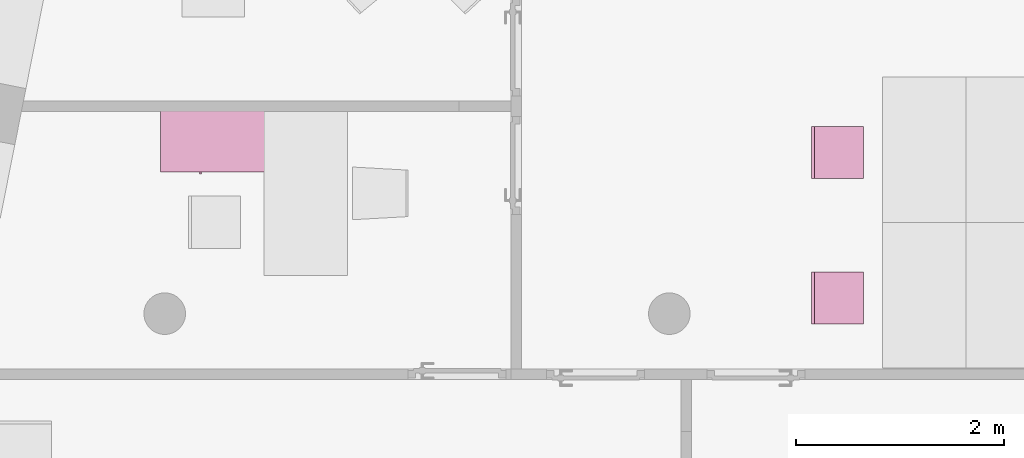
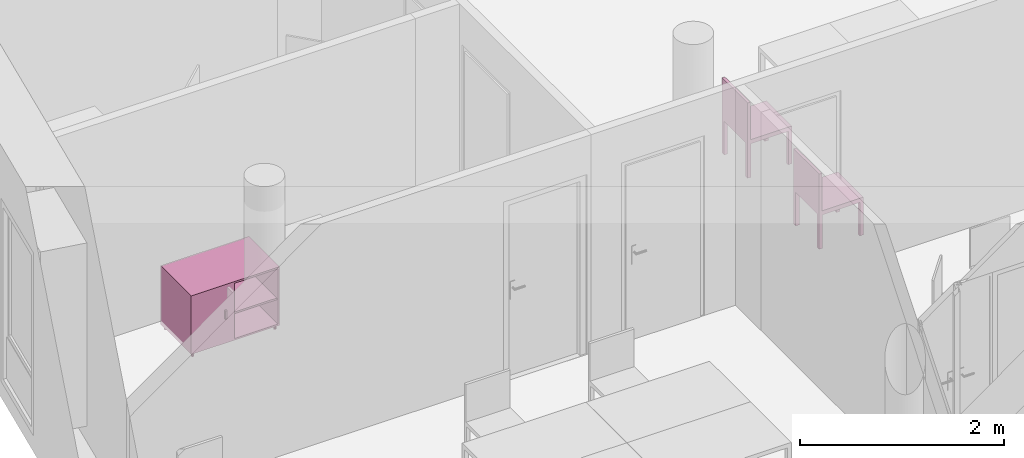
"""IFC4 building model written with IfcOpenShell, lengths in metres."""

from ifc_helpers import new_model, entity, si_unit, converted_unit, derived_unit, frame, origin, place, context, subcontext, project, spatial, faceted_brep, element, save


model = new_model("IFC4")

# Units and contexts
model_context = context("Model", 3, precision=1e-05, world=origin())
body_context = subcontext(model_context, "Body", "Model", "MODEL_VIEW")
ifc_project = project(units=[si_unit("LENGTHUNIT", "METRE"), si_unit("AREAUNIT", "SQUARE_METRE"), si_unit("VOLUMEUNIT", "CUBIC_METRE"), si_unit("MASSUNIT", "GRAM", prefix="KILO"), converted_unit("PLANEANGLEUNIT", "DEGREE", entity("IfcPlaneAngleMeasure", 0.0174532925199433), si_unit("PLANEANGLEUNIT", "RADIAN"), dimensions=[0, 0, 0, 0, 0, 0, 0]), derived_unit("THERMALTRANSMITTANCEUNIT", [(si_unit("POWERUNIT", "WATT"), 1), (si_unit("THERMODYNAMICTEMPERATUREUNIT", "KELVIN"), -1), (si_unit("LENGTHUNIT", "METRE"), -2)]), derived_unit("VOLUMETRICFLOWRATEUNIT", [(si_unit("LENGTHUNIT", "METRE"), 3), (converted_unit("TIMEUNIT", "hour", entity("IfcTimeMeasure", 3600.0), si_unit("TIMEUNIT", "SECOND"), dimensions=[0, 0, 1, 0, 0, 0, 0]), -1), (si_unit("LENGTHUNIT", "METRE"), -1)])], contexts=[model_context])

# Building, storeys
building_placement = place(None, origin())
building = spatial("IfcBuilding", under=ifc_project, at=building_placement, Name="HABITATGE PLURIFAMILIAR", CompositionType="ELEMENT")
storey_1_placement = place(building_placement, frame((0.0, 0.0, 12.27)))
storey_1 = spatial("IfcBuildingStorey", under=building, at=storey_1_placement, Name="PLANTA TERCERA", CompositionType="ELEMENT", Elevation=12.27)
storey_2_placement = place(storey_1_placement, frame((0.0, 0.0, 9.26)))
storey_2 = spatial("IfcBuildingStorey", under=storey_1, at=storey_2_placement, Name="NOU", CompositionType="PARTIAL")

# Furniture
furniture_1_placement = place(storey_2_placement, frame((400.947150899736, 19.1432015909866, -9.3599999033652)))
element("IfcFurniture", 1, at=furniture_1_placement, inside=storey_2, Name="Taula 100X60_P3", context=body_context, shape_type="Brep", body=[
    faceted_brep([(1.0, 0.620000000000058, 0.05), (1.0, 0.02, 0.05), (1.0, 0.02, 0.07), (1.0, 0.620000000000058, 0.07), (0.0, 0.02, 0.05), (0.0, 0.02, 0.07), (0.0, 0.620000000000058, 0.05), (0.0, 0.620000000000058, 0.07)], [[[0, 1, 2, 3]], [[1, 4, 5, 2]], [[4, 6, 7, 5]], [[6, 0, 3, 7]], [[0, 6, 4, 1]], [[3, 2, 5, 7]]], orient=[[False], [False], [False], [False], [False], [False]]),
    faceted_brep([(1.0, 0.04, 0.35), (1.0, 0.62, 0.35), (0.0, 0.62, 0.35), (0.0, 0.04, 0.35), (1.0, 0.62, 0.37), (1.0, 0.04, 0.37), (0.0, 0.04, 0.37), (0.0, 0.62, 0.37)], [[[0, 1, 2, 3]], [[4, 5, 6, 7]], [[1, 0, 5, 4]], [[2, 1, 4, 7]], [[3, 2, 7, 6]], [[0, 3, 6, 5]]], orient=[[False], [False], [False], [False], [False], [False]]),
    faceted_brep([(0.49, 0.04, 0.75), (0.49, 0.04, 0.05), (0.49, 0.02, 0.05), (0.49, 0.02, 0.75), (0.0, 0.04, 0.05), (0.0, 0.02, 0.05), (0.0, 0.04, 0.75), (0.0, 0.02, 0.75)], [[[0, 1, 2, 3]], [[1, 4, 5, 2]], [[4, 6, 7, 5]], [[6, 0, 3, 7]], [[0, 6, 4, 1]], [[3, 2, 5, 7]]], orient=[[False], [False], [False], [False], [False], [False]]),
    faceted_brep([(0.98, 0.62, 0.75), (0.98, 0.620000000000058, 0.0499999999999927), (1.0, 0.620000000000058, 0.0499999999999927), (1.0, 0.62, 0.75), (0.98, 0.02, 0.05), (1.0, 0.02, 0.05), (0.98, 0.02, 0.75), (1.0, 0.02, 0.75)], [[[0, 1, 2, 3]], [[1, 4, 5, 2]], [[4, 6, 7, 5]], [[6, 0, 3, 7]], [[0, 6, 4, 1]], [[3, 2, 5, 7]]], orient=[[False], [False], [False], [False], [False], [False]]),
    faceted_brep([(0.47, 0.62, 0.75), (0.47, 0.620000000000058, 0.0499999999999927), (0.49, 0.620000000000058, 0.0499999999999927), (0.49, 0.62, 0.75), (0.47, 0.02, 0.05), (0.49, 0.02, 0.05), (0.47, 0.02, 0.75), (0.49, 0.02, 0.75)], [[[0, 1, 2, 3]], [[1, 4, 5, 2]], [[4, 6, 7, 5]], [[6, 0, 3, 7]], [[0, 6, 4, 1]], [[3, 2, 5, 7]]], orient=[[False], [False], [False], [False], [False], [False]]),
    faceted_brep([(0.47, 0.620000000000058, 0.750000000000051), (0.47, 0.620000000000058, 0.0499999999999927), (0.49, 0.620000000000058, 0.0499999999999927), (0.49, 0.620000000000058, 0.750000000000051), (0.47, 0.0400000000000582, 0.0499999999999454), (0.49, 0.0400000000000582, 0.0499999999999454), (0.47, 0.04, 0.750000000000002), (0.49, 0.04, 0.750000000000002)], [[[0, 1, 2, 3]], [[1, 4, 5, 2]], [[4, 6, 7, 5]], [[6, 0, 3, 7]], [[0, 6, 4, 1]], [[3, 2, 5, 7]]], orient=[[False], [False], [False], [False], [False], [False]]),
    faceted_brep([(0.0, 0.62, 0.75), (0.0, 0.620000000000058, 0.0499999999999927), (0.02, 0.620000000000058, 0.0499999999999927), (0.02, 0.62, 0.75), (0.0, 0.02, 0.05), (0.02, 0.02, 0.05), (0.0, 0.02, 0.75), (0.02, 0.02, 0.75)], [[[0, 1, 2, 3]], [[1, 4, 5, 2]], [[4, 6, 7, 5]], [[6, 0, 3, 7]], [[0, 6, 4, 1]], [[3, 2, 5, 7]]], orient=[[False], [False], [False], [False], [False], [False]]),
    faceted_brep([(1.0, 0.620000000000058, 0.73), (1.0, 0.02, 0.73), (1.0, 0.02, 0.75), (1.0, 0.620000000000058, 0.75), (0.0, 0.02, 0.73), (0.0, 0.02, 0.75), (0.0, 0.620000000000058, 0.73), (0.0, 0.620000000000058, 0.75)], [[[0, 1, 2, 3]], [[1, 4, 5, 2]], [[4, 6, 7, 5]], [[6, 0, 3, 7]], [[0, 6, 4, 1]], [[3, 2, 5, 7]]], orient=[[False], [False], [False], [False], [False], [False]]),
    faceted_brep([(0.98, 0.62, 0.75), (0.98, 0.62, 0.05), (0.98, 0.6, 0.05), (0.98, 0.6, 0.75), (0.0, 0.62, 0.05), (0.0, 0.6, 0.05), (0.0, 0.62, 0.75), (0.0, 0.6, 0.75)], [[[0, 1, 2, 3]], [[1, 4, 5, 2]], [[4, 6, 7, 5]], [[6, 0, 3, 7]], [[0, 6, 4, 1]], [[3, 2, 5, 7]]], orient=[[False], [False], [False], [False], [False], [False]]),
    faceted_brep([(0.374420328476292, 0.02, 0.35), (0.374420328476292, 0.0, 0.35), (0.394420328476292, 0.0, 0.35), (0.394420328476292, 0.02, 0.35), (0.394420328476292, 0.02, 0.45), (0.394420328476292, 0.0, 0.45), (0.374420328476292, 0.0, 0.45), (0.374420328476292, 0.02, 0.45)], [[[0, 1, 2, 3]], [[4, 5, 6, 7]], [[3, 4, 7, 0]], [[2, 5, 4, 3]], [[1, 6, 5, 2]], [[0, 7, 6, 1]]], orient=[[False], [False], [False], [False], [False], [False]]),
    faceted_brep([(0.950063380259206, 0.583821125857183, 0.0), (0.950290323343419, 0.581227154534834, 0.0), (0.9509642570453, 0.578711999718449, 0.0), (0.952064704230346, 0.5763520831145, 0.0), (0.953558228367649, 0.574219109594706, 0.0), (0.955399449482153, 0.57237788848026, 0.0), (0.957532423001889, 0.570884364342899, 0.0), (0.959892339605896, 0.569783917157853, 0.0), (0.962407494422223, 0.569109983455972, 0.0), (0.96500146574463, 0.568883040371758, 0.0), (0.967595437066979, 0.569109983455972, 0.0), (0.970110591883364, 0.569783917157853, 0.0), (0.972470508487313, 0.570884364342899, 0.0), (0.974603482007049, 0.57237788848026, 0.0), (0.976444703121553, 0.574219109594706, 0.0), (0.977938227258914, 0.5763520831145, 0.0), (0.979038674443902, 0.578711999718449, 0.0), (0.979712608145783, 0.581227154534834, 0.0), (0.979939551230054, 0.583821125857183, 0.0), (0.979712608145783, 0.586415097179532, 0.0), (0.979038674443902, 0.588930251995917, 0.0), (0.977938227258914, 0.591290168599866, 0.0), (0.976444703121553, 0.59342314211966, 0.0), (0.974603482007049, 0.595264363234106, 0.0), (0.972470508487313, 0.596757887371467, 0.0), (0.970110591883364, 0.597858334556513, 0.0), (0.967595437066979, 0.598532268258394, 0.0), (0.96500146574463, 0.598759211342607, 0.0), (0.962407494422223, 0.598532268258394, 0.0), (0.959892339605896, 0.597858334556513, 0.0), (0.957532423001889, 0.596757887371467, 0.0), (0.955399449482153, 0.595264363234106, 0.0), (0.953558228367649, 0.59342314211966, 0.0), (0.952064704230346, 0.591290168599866, 0.0), (0.9509642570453, 0.588930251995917, 0.0), (0.950290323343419, 0.586415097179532, 0.0), (0.950063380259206, 0.583821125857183, 0.05), (0.950290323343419, 0.586415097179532, 0.05), (0.9509642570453, 0.588930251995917, 0.05), (0.952064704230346, 0.591290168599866, 0.05), (0.953558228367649, 0.59342314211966, 0.05), (0.955399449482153, 0.595264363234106, 0.05), (0.957532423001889, 0.596757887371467, 0.05), (0.959892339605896, 0.597858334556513, 0.05), (0.962407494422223, 0.598532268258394, 0.05), (0.96500146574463, 0.598759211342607, 0.05), (0.967595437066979, 0.598532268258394, 0.05), (0.970110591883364, 0.597858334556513, 0.05), (0.972470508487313, 0.596757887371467, 0.05), (0.974603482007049, 0.595264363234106, 0.05), (0.976444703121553, 0.59342314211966, 0.05), (0.977938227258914, 0.591290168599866, 0.05), (0.979038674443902, 0.588930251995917, 0.05), (0.979712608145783, 0.586415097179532, 0.05), (0.979939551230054, 0.583821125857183, 0.05), (0.979712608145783, 0.581227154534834, 0.05), (0.979038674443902, 0.578711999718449, 0.05), (0.977938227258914, 0.5763520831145, 0.05), (0.976444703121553, 0.574219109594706, 0.05), (0.974603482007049, 0.57237788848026, 0.05), (0.972470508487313, 0.570884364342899, 0.05), (0.970110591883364, 0.569783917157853, 0.05), (0.967595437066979, 0.569109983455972, 0.05), (0.96500146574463, 0.568883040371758, 0.05), (0.962407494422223, 0.569109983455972, 0.05), (0.959892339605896, 0.569783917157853, 0.05), (0.957532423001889, 0.570884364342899, 0.05), (0.955399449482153, 0.57237788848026, 0.05), (0.953558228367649, 0.574219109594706, 0.05), (0.952064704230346, 0.5763520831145, 0.05), (0.9509642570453, 0.578711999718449, 0.05), (0.950290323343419, 0.581227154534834, 0.05)], [[[0, 1, 2, 3, 4, 5, 6, 7, 8, 9, 10, 11, 12, 13, 14, 15, 16, 17, 18, 19, 20, 21, 22, 23, 24, 25, 26, 27, 28, 29, 30, 31, 32, 33, 34, 35]], [[36, 37, 38, 39, 40, 41, 42, 43, 44, 45, 46, 47, 48, 49, 50, 51, 52, 53, 54, 55, 56, 57, 58, 59, 60, 61, 62, 63, 64, 65, 66, 67, 68, 69, 70, 71]], [[1, 0, 36, 71]], [[2, 1, 71, 70]], [[3, 2, 70, 69]], [[4, 3, 69, 68]], [[5, 4, 68, 67]], [[6, 5, 67, 66]], [[7, 6, 66, 65]], [[8, 7, 65, 64]], [[9, 8, 64, 63]], [[10, 9, 63, 62]], [[11, 10, 62, 61]], [[12, 11, 61, 60]], [[13, 12, 60, 59]], [[14, 13, 59, 58]], [[15, 14, 58, 57]], [[16, 15, 57, 56]], [[17, 16, 56, 55]], [[18, 17, 55, 54]], [[19, 18, 54, 53]], [[20, 19, 53, 52]], [[21, 20, 52, 51]], [[22, 21, 51, 50]], [[23, 22, 50, 49]], [[24, 23, 49, 48]], [[25, 24, 48, 47]], [[26, 25, 47, 46]], [[27, 26, 46, 45]], [[28, 27, 45, 44]], [[29, 28, 44, 43]], [[30, 29, 43, 42]], [[31, 30, 42, 41]], [[32, 31, 41, 40]], [[33, 32, 40, 39]], [[34, 33, 39, 38]], [[35, 34, 38, 37]], [[0, 35, 37, 36]]], orient=[[False], [False], [False], [False], [False], [False], [False], [False], [False], [False], [False], [False], [False], [False], [False], [False], [False], [False], [False], [False], [False], [False], [False], [False], [False], [False], [False], [False], [False], [False], [False], [False], [False], [False], [False], [False], [False], [False]]),
    faceted_brep([(0.950063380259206, 0.0538211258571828, 0.0), (0.950290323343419, 0.051227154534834, 0.0), (0.9509642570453, 0.0487119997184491, 0.0), (0.952064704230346, 0.0463520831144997, 0.0), (0.953558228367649, 0.0442191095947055, 0.0), (0.955399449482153, 0.0423778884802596, 0.0), (0.957532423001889, 0.0408843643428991, 0.0), (0.959892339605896, 0.0397839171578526, 0.0), (0.962407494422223, 0.0391099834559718, 0.0), (0.96500146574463, 0.0388830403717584, 0.0), (0.967595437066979, 0.0391099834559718, 0.0), (0.970110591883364, 0.0397839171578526, 0.0), (0.972470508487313, 0.0408843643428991, 0.0), (0.974603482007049, 0.0423778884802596, 0.0), (0.976444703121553, 0.0442191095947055, 0.0), (0.977938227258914, 0.0463520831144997, 0.0), (0.97903867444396, 0.0487119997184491, 0.0), (0.979712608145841, 0.051227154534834, 0.0), (0.979939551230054, 0.0538211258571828, 0.0), (0.979712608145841, 0.0564150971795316, 0.0), (0.97903867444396, 0.0589302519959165, 0.0), (0.977938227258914, 0.0612901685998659, 0.0), (0.976444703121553, 0.06342314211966, 0.0), (0.974603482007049, 0.065264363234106, 0.0), (0.972470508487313, 0.0667578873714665, 0.0), (0.970110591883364, 0.067858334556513, 0.0), (0.967595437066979, 0.0685322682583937, 0.0), (0.96500146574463, 0.0687592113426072, 0.0), (0.962407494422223, 0.0685322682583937, 0.0), (0.959892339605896, 0.067858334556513, 0.0), (0.957532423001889, 0.0667578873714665, 0.0), (0.955399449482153, 0.065264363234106, 0.0), (0.953558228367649, 0.06342314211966, 0.0), (0.952064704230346, 0.0612901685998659, 0.0), (0.9509642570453, 0.0589302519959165, 0.0), (0.950290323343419, 0.0564150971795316, 0.0), (0.950063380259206, 0.0538211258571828, 0.05), (0.950290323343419, 0.0564150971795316, 0.05), (0.9509642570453, 0.0589302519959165, 0.05), (0.952064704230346, 0.0612901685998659, 0.05), (0.953558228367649, 0.06342314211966, 0.05), (0.955399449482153, 0.065264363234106, 0.05), (0.957532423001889, 0.0667578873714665, 0.05), (0.959892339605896, 0.067858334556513, 0.05), (0.962407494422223, 0.0685322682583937, 0.05), (0.96500146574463, 0.0687592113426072, 0.05), (0.967595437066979, 0.0685322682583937, 0.05), (0.970110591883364, 0.067858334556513, 0.05), (0.972470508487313, 0.0667578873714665, 0.05), (0.974603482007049, 0.065264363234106, 0.05), (0.976444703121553, 0.06342314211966, 0.05), (0.977938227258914, 0.0612901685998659, 0.05), (0.97903867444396, 0.0589302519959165, 0.05), (0.979712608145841, 0.0564150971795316, 0.05), (0.979939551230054, 0.0538211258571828, 0.05), (0.979712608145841, 0.051227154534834, 0.05), (0.97903867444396, 0.0487119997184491, 0.05), (0.977938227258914, 0.0463520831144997, 0.05), (0.976444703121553, 0.0442191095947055, 0.05), (0.974603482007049, 0.0423778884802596, 0.05), (0.972470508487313, 0.0408843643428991, 0.05), (0.970110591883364, 0.0397839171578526, 0.05), (0.967595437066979, 0.0391099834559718, 0.05), (0.96500146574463, 0.0388830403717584, 0.05), (0.962407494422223, 0.0391099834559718, 0.05), (0.959892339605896, 0.0397839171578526, 0.05), (0.957532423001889, 0.0408843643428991, 0.05), (0.955399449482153, 0.0423778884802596, 0.05), (0.953558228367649, 0.0442191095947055, 0.05), (0.952064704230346, 0.0463520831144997, 0.05), (0.9509642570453, 0.0487119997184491, 0.05), (0.950290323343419, 0.051227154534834, 0.05)], [[[0, 1, 2, 3, 4, 5, 6, 7, 8, 9, 10, 11, 12, 13, 14, 15, 16, 17, 18, 19, 20, 21, 22, 23, 24, 25, 26, 27, 28, 29, 30, 31, 32, 33, 34, 35]], [[36, 37, 38, 39, 40, 41, 42, 43, 44, 45, 46, 47, 48, 49, 50, 51, 52, 53, 54, 55, 56, 57, 58, 59, 60, 61, 62, 63, 64, 65, 66, 67, 68, 69, 70, 71]], [[1, 0, 36, 71]], [[2, 1, 71, 70]], [[3, 2, 70, 69]], [[4, 3, 69, 68]], [[5, 4, 68, 67]], [[6, 5, 67, 66]], [[7, 6, 66, 65]], [[8, 7, 65, 64]], [[9, 8, 64, 63]], [[10, 9, 63, 62]], [[11, 10, 62, 61]], [[12, 11, 61, 60]], [[13, 12, 60, 59]], [[14, 13, 59, 58]], [[15, 14, 58, 57]], [[16, 15, 57, 56]], [[17, 16, 56, 55]], [[18, 17, 55, 54]], [[19, 18, 54, 53]], [[20, 19, 53, 52]], [[21, 20, 52, 51]], [[22, 21, 51, 50]], [[23, 22, 50, 49]], [[24, 23, 49, 48]], [[25, 24, 48, 47]], [[26, 25, 47, 46]], [[27, 26, 46, 45]], [[28, 27, 45, 44]], [[29, 28, 44, 43]], [[30, 29, 43, 42]], [[31, 30, 42, 41]], [[32, 31, 41, 40]], [[33, 32, 40, 39]], [[34, 33, 39, 38]], [[35, 34, 38, 37]], [[0, 35, 37, 36]]], orient=[[False], [False], [False], [False], [False], [False], [False], [False], [False], [False], [False], [False], [False], [False], [False], [False], [False], [False], [False], [False], [False], [False], [False], [False], [False], [False], [False], [False], [False], [False], [False], [False], [False], [False], [False], [False], [False], [False]]),
    faceted_brep([(0.0200170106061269, 0.0550000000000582, 0.0), (0.0202439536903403, 0.0524060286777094, 0.0), (0.020917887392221, 0.0498908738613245, 0.0), (0.0220183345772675, 0.0475309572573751, 0.0), (0.0235118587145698, 0.0453979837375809, 0.0), (0.025353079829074, 0.043556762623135, 0.0), (0.0274860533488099, 0.0420632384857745, 0.0), (0.0298459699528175, 0.040962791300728, 0.0), (0.0323611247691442, 0.0402888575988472, 0.0), (0.0349550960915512, 0.0400619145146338, 0.0), (0.0375490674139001, 0.0402888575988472, 0.0), (0.0400642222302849, 0.040962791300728, 0.0), (0.0424241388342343, 0.0420632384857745, 0.0), (0.0445571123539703, 0.043556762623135, 0.0), (0.0463983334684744, 0.0453979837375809, 0.0), (0.047891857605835, 0.0475309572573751, 0.0), (0.0489923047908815, 0.0498908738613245, 0.0), (0.0496662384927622, 0.0524060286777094, 0.0), (0.0498931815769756, 0.0550000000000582, 0.0), (0.0496662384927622, 0.057593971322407, 0.0), (0.0489923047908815, 0.0601091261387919, 0.0), (0.047891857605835, 0.0624690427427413, 0.0), (0.0463983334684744, 0.0646020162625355, 0.0), (0.0445571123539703, 0.0664432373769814, 0.0), (0.0424241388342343, 0.0679367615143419, 0.0), (0.0400642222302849, 0.0690372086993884, 0.0), (0.0375490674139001, 0.0697111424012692, 0.0), (0.0349550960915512, 0.0699380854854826, 0.0), (0.0323611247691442, 0.0697111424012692, 0.0), (0.0298459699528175, 0.0690372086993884, 0.0), (0.0274860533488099, 0.0679367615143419, 0.0), (0.025353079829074, 0.0664432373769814, 0.0), (0.0235118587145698, 0.0646020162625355, 0.0), (0.0220183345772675, 0.0624690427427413, 0.0), (0.020917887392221, 0.0601091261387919, 0.0), (0.0202439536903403, 0.057593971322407, 0.0), (0.0200170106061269, 0.0550000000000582, 0.05), (0.0202439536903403, 0.057593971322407, 0.05), (0.020917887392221, 0.0601091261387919, 0.05), (0.0220183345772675, 0.0624690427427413, 0.05), (0.0235118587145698, 0.0646020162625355, 0.05), (0.025353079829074, 0.0664432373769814, 0.05), (0.0274860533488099, 0.0679367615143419, 0.05), (0.0298459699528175, 0.0690372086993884, 0.05), (0.0323611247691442, 0.0697111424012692, 0.05), (0.0349550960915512, 0.0699380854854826, 0.05), (0.0375490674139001, 0.0697111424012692, 0.05), (0.0400642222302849, 0.0690372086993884, 0.05), (0.0424241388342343, 0.0679367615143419, 0.05), (0.0445571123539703, 0.0664432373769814, 0.05), (0.0463983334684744, 0.0646020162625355, 0.05), (0.047891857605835, 0.0624690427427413, 0.05), (0.0489923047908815, 0.0601091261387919, 0.05), (0.0496662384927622, 0.057593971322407, 0.05), (0.0498931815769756, 0.0550000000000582, 0.05), (0.0496662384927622, 0.0524060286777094, 0.05), (0.0489923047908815, 0.0498908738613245, 0.05), (0.047891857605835, 0.0475309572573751, 0.05), (0.0463983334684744, 0.0453979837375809, 0.05), (0.0445571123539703, 0.043556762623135, 0.05), (0.0424241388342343, 0.0420632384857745, 0.05), (0.0400642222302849, 0.040962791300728, 0.05), (0.0375490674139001, 0.0402888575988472, 0.05), (0.0349550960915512, 0.0400619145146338, 0.05), (0.0323611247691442, 0.0402888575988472, 0.05), (0.0298459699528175, 0.040962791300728, 0.05), (0.0274860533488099, 0.0420632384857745, 0.05), (0.025353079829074, 0.043556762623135, 0.05), (0.0235118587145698, 0.0453979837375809, 0.05), (0.0220183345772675, 0.0475309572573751, 0.05), (0.020917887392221, 0.0498908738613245, 0.05), (0.0202439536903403, 0.0524060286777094, 0.05)], [[[0, 1, 2, 3, 4, 5, 6, 7, 8, 9, 10, 11, 12, 13, 14, 15, 16, 17, 18, 19, 20, 21, 22, 23, 24, 25, 26, 27, 28, 29, 30, 31, 32, 33, 34, 35]], [[36, 37, 38, 39, 40, 41, 42, 43, 44, 45, 46, 47, 48, 49, 50, 51, 52, 53, 54, 55, 56, 57, 58, 59, 60, 61, 62, 63, 64, 65, 66, 67, 68, 69, 70, 71]], [[1, 0, 36, 71]], [[2, 1, 71, 70]], [[3, 2, 70, 69]], [[4, 3, 69, 68]], [[5, 4, 68, 67]], [[6, 5, 67, 66]], [[7, 6, 66, 65]], [[8, 7, 65, 64]], [[9, 8, 64, 63]], [[10, 9, 63, 62]], [[11, 10, 62, 61]], [[12, 11, 61, 60]], [[13, 12, 60, 59]], [[14, 13, 59, 58]], [[15, 14, 58, 57]], [[16, 15, 57, 56]], [[17, 16, 56, 55]], [[18, 17, 55, 54]], [[19, 18, 54, 53]], [[20, 19, 53, 52]], [[21, 20, 52, 51]], [[22, 21, 51, 50]], [[23, 22, 50, 49]], [[24, 23, 49, 48]], [[25, 24, 48, 47]], [[26, 25, 47, 46]], [[27, 26, 46, 45]], [[28, 27, 45, 44]], [[29, 28, 44, 43]], [[30, 29, 43, 42]], [[31, 30, 42, 41]], [[32, 31, 41, 40]], [[33, 32, 40, 39]], [[34, 33, 39, 38]], [[35, 34, 38, 37]], [[0, 35, 37, 36]]], orient=[[False], [False], [False], [False], [False], [False], [False], [False], [False], [False], [False], [False], [False], [False], [False], [False], [False], [False], [False], [False], [False], [False], [False], [False], [False], [False], [False], [False], [False], [False], [False], [False], [False], [False], [False], [False], [False], [False]]),
    faceted_brep([(0.0203520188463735, 0.585033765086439, 0.0), (0.020578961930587, 0.58243979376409, 0.0), (0.0212528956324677, 0.579924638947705, 0.0), (0.0223533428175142, 0.577564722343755, 0.0), (0.0238468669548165, 0.575431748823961, 0.0), (0.0256880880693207, 0.573590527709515, 0.0), (0.0278210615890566, 0.572097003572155, 0.0), (0.0301809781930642, 0.570996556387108, 0.0), (0.0326961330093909, 0.570322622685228, 0.0), (0.0352901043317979, 0.570095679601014, 0.0), (0.0378840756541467, 0.570322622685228, 0.0), (0.0403992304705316, 0.570996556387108, 0.0), (0.042759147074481, 0.572097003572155, 0.0), (0.044892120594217, 0.573590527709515, 0.0), (0.0467333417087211, 0.575431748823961, 0.0), (0.0482268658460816, 0.577564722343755, 0.0), (0.0493273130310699, 0.579924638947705, 0.0), (0.0500012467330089, 0.58243979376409, 0.0), (0.0502281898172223, 0.585033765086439, 0.0), (0.0500012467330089, 0.587627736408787, 0.0), (0.0493273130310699, 0.590142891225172, 0.0), (0.0482268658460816, 0.592502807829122, 0.0), (0.0467333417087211, 0.594635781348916, 0.0), (0.044892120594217, 0.596477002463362, 0.0), (0.042759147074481, 0.597970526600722, 0.0), (0.0403992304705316, 0.599070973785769, 0.0), (0.0378840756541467, 0.59974490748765, 0.0), (0.0352901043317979, 0.599971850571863, 0.0), (0.0326961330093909, 0.59974490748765, 0.0), (0.0301809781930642, 0.599070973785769, 0.0), (0.0278210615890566, 0.597970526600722, 0.0), (0.0256880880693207, 0.596477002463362, 0.0), (0.0238468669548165, 0.594635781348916, 0.0), (0.0223533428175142, 0.592502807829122, 0.0), (0.0212528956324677, 0.590142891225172, 0.0), (0.020578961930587, 0.587627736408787, 0.0), (0.0203520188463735, 0.585033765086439, 0.05), (0.020578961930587, 0.587627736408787, 0.05), (0.0212528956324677, 0.590142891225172, 0.05), (0.0223533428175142, 0.592502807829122, 0.05), (0.0238468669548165, 0.594635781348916, 0.05), (0.0256880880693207, 0.596477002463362, 0.05), (0.0278210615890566, 0.597970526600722, 0.05), (0.0301809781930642, 0.599070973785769, 0.05), (0.0326961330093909, 0.59974490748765, 0.05), (0.0352901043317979, 0.599971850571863, 0.05), (0.0378840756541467, 0.59974490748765, 0.05), (0.0403992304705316, 0.599070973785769, 0.05), (0.042759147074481, 0.597970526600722, 0.05), (0.044892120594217, 0.596477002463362, 0.05), (0.0467333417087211, 0.594635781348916, 0.05), (0.0482268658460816, 0.592502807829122, 0.05), (0.0493273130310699, 0.590142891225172, 0.05), (0.0500012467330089, 0.587627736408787, 0.05), (0.0502281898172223, 0.585033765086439, 0.05), (0.0500012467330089, 0.58243979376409, 0.05), (0.0493273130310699, 0.579924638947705, 0.05), (0.0482268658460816, 0.577564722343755, 0.05), (0.0467333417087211, 0.575431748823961, 0.05), (0.044892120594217, 0.573590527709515, 0.05), (0.042759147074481, 0.572097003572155, 0.05), (0.0403992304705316, 0.570996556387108, 0.05), (0.0378840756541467, 0.570322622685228, 0.05), (0.0352901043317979, 0.570095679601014, 0.05), (0.0326961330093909, 0.570322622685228, 0.05), (0.0301809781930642, 0.570996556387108, 0.05), (0.0278210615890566, 0.572097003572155, 0.05), (0.0256880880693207, 0.573590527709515, 0.05), (0.0238468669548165, 0.575431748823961, 0.05), (0.0223533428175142, 0.577564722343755, 0.05), (0.0212528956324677, 0.579924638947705, 0.05), (0.020578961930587, 0.58243979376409, 0.05)], [[[0, 1, 2, 3, 4, 5, 6, 7, 8, 9, 10, 11, 12, 13, 14, 15, 16, 17, 18, 19, 20, 21, 22, 23, 24, 25, 26, 27, 28, 29, 30, 31, 32, 33, 34, 35]], [[36, 37, 38, 39, 40, 41, 42, 43, 44, 45, 46, 47, 48, 49, 50, 51, 52, 53, 54, 55, 56, 57, 58, 59, 60, 61, 62, 63, 64, 65, 66, 67, 68, 69, 70, 71]], [[1, 0, 36, 71]], [[2, 1, 71, 70]], [[3, 2, 70, 69]], [[4, 3, 69, 68]], [[5, 4, 68, 67]], [[6, 5, 67, 66]], [[7, 6, 66, 65]], [[8, 7, 65, 64]], [[9, 8, 64, 63]], [[10, 9, 63, 62]], [[11, 10, 62, 61]], [[12, 11, 61, 60]], [[13, 12, 60, 59]], [[14, 13, 59, 58]], [[15, 14, 58, 57]], [[16, 15, 57, 56]], [[17, 16, 56, 55]], [[18, 17, 55, 54]], [[19, 18, 54, 53]], [[20, 19, 53, 52]], [[21, 20, 52, 51]], [[22, 21, 51, 50]], [[23, 22, 50, 49]], [[24, 23, 49, 48]], [[25, 24, 48, 47]], [[26, 25, 47, 46]], [[27, 26, 46, 45]], [[28, 27, 45, 44]], [[29, 28, 44, 43]], [[30, 29, 43, 42]], [[31, 30, 42, 41]], [[32, 31, 41, 40]], [[33, 32, 40, 39]], [[34, 33, 39, 38]], [[35, 34, 38, 37]], [[0, 35, 37, 36]]], orient=[[False], [False], [False], [False], [False], [False], [False], [False], [False], [False], [False], [False], [False], [False], [False], [False], [False], [False], [False], [False], [False], [False], [False], [False], [False], [False], [False], [False], [False], [False], [False], [False], [False], [False], [False], [False], [False], [False]]),
])
furniture_2_placement = place(storey_2_placement, frame((407.202520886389, 17.6980313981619, -9.3546338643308)))
element("IfcFurniture", 2, at=furniture_2_placement, inside=storey_2, Name="Cadira d'Oficina_P3", context=body_context, shape_type="Brep", body=[
    faceted_brep([(0.500000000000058, 0.5, 0.4), (0.0, 0.5, 0.4), (0.0, 0.0, 0.4), (0.500000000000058, 0.0, 0.4), (0.0, 0.5, 0.45), (0.500000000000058, 0.5, 0.45), (0.500000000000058, 0.0, 0.45), (0.0, 0.0, 0.45)], [[[0, 1, 2, 3]], [[4, 5, 6, 7]], [[1, 0, 5, 4]], [[2, 1, 4, 7]], [[3, 2, 7, 6]], [[0, 3, 6, 5]]], orient=[[False], [False], [False], [False], [False], [False]]),
    faceted_brep([(0.0400000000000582, 0.0, 0.0), (0.0400000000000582, 0.04, 0.0), (0.0, 0.04, 0.0), (0.0, 0.0, 0.0), (0.0400000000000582, 0.04, 0.4), (0.0400000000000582, 0.0, 0.4), (0.0, 0.0, 0.4), (0.0, 0.04, 0.4)], [[[0, 1, 2, 3]], [[4, 5, 6, 7]], [[1, 0, 5, 4]], [[2, 1, 4, 7]], [[3, 2, 7, 6]], [[0, 3, 6, 5]]], orient=[[False], [False], [False], [False], [False], [False]]),
    faceted_brep([(0.500000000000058, 0.0, 0.0), (0.500000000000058, 0.04, 0.0), (0.460000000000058, 0.04, 0.0), (0.460000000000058, 0.0, 0.0), (0.500000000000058, 0.04, 0.4), (0.500000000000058, 0.0, 0.4), (0.460000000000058, 0.0, 0.4), (0.460000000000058, 0.04, 0.4)], [[[0, 1, 2, 3]], [[4, 5, 6, 7]], [[1, 0, 5, 4]], [[2, 1, 4, 7]], [[3, 2, 7, 6]], [[0, 3, 6, 5]]], orient=[[False], [False], [False], [False], [False], [False]]),
    faceted_brep([(0.04, 0.46, 0.0), (0.04, 0.5, 0.0), (0.0, 0.5, 0.0), (0.0, 0.46, 0.0), (0.04, 0.5, 0.4), (0.04, 0.46, 0.4), (0.0, 0.46, 0.4), (0.0, 0.5, 0.4)], [[[0, 1, 2, 3]], [[4, 5, 6, 7]], [[1, 0, 5, 4]], [[2, 1, 4, 7]], [[3, 2, 7, 6]], [[0, 3, 6, 5]]], orient=[[False], [False], [False], [False], [False], [False]]),
    faceted_brep([(0.500000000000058, 0.46, 0.0), (0.500000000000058, 0.5, 0.0), (0.460000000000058, 0.5, 0.0), (0.460000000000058, 0.46, 0.0), (0.500000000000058, 0.5, 0.4), (0.500000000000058, 0.46, 0.4), (0.460000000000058, 0.46, 0.4), (0.460000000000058, 0.5, 0.4)], [[[0, 1, 2, 3]], [[4, 5, 6, 7]], [[1, 0, 5, 4]], [[2, 1, 4, 7]], [[3, 2, 7, 6]], [[0, 3, 6, 5]]], orient=[[False], [False], [False], [False], [False], [False]]),
    faceted_brep([(0.0300000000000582, 0.0, 0.45), (0.03, 0.5, 0.45), (0.0, 0.5, 0.45), (0.0, 0.0, 0.45), (0.03, 0.5, 0.9), (0.0300000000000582, 0.0, 0.9), (0.0, 0.0, 0.9), (0.0, 0.5, 0.9)], [[[0, 1, 2, 3]], [[4, 5, 6, 7]], [[1, 0, 5, 4]], [[2, 1, 4, 7]], [[3, 2, 7, 6]], [[0, 3, 6, 5]]], orient=[[False], [False], [False], [False], [False], [False]]),
])
furniture_3_placement = place(storey_2_placement, frame((407.202520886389, 19.0992104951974, -9.3546338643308)))
element("IfcFurniture", 3, at=furniture_3_placement, inside=storey_2, Name="Cadira d'Oficina_P3", context=body_context, shape_type="Brep", body=[
    faceted_brep([(0.500000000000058, 0.5, 0.4), (0.0, 0.5, 0.4), (0.0, 0.0, 0.4), (0.500000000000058, 0.0, 0.4), (0.0, 0.5, 0.45), (0.500000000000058, 0.5, 0.45), (0.500000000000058, 0.0, 0.45), (0.0, 0.0, 0.45)], [[[0, 1, 2, 3]], [[4, 5, 6, 7]], [[1, 0, 5, 4]], [[2, 1, 4, 7]], [[3, 2, 7, 6]], [[0, 3, 6, 5]]], orient=[[False], [False], [False], [False], [False], [False]]),
    faceted_brep([(0.0400000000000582, 0.0, 0.0), (0.0400000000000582, 0.04, 0.0), (0.0, 0.04, 0.0), (0.0, 0.0, 0.0), (0.0400000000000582, 0.04, 0.4), (0.0400000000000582, 0.0, 0.4), (0.0, 0.0, 0.4), (0.0, 0.04, 0.4)], [[[0, 1, 2, 3]], [[4, 5, 6, 7]], [[1, 0, 5, 4]], [[2, 1, 4, 7]], [[3, 2, 7, 6]], [[0, 3, 6, 5]]], orient=[[False], [False], [False], [False], [False], [False]]),
    faceted_brep([(0.500000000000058, 0.0, 0.0), (0.500000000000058, 0.04, 0.0), (0.460000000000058, 0.04, 0.0), (0.460000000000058, 0.0, 0.0), (0.500000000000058, 0.04, 0.4), (0.500000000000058, 0.0, 0.4), (0.460000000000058, 0.0, 0.4), (0.460000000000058, 0.04, 0.4)], [[[0, 1, 2, 3]], [[4, 5, 6, 7]], [[1, 0, 5, 4]], [[2, 1, 4, 7]], [[3, 2, 7, 6]], [[0, 3, 6, 5]]], orient=[[False], [False], [False], [False], [False], [False]]),
    faceted_brep([(0.04, 0.46, 0.0), (0.04, 0.5, 0.0), (0.0, 0.5, 0.0), (0.0, 0.46, 0.0), (0.04, 0.5, 0.4), (0.04, 0.46, 0.4), (0.0, 0.46, 0.4), (0.0, 0.5, 0.4)], [[[0, 1, 2, 3]], [[4, 5, 6, 7]], [[1, 0, 5, 4]], [[2, 1, 4, 7]], [[3, 2, 7, 6]], [[0, 3, 6, 5]]], orient=[[False], [False], [False], [False], [False], [False]]),
    faceted_brep([(0.500000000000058, 0.46, 0.0), (0.500000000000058, 0.5, 0.0), (0.460000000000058, 0.5, 0.0), (0.460000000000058, 0.46, 0.0), (0.500000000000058, 0.5, 0.4), (0.500000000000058, 0.46, 0.4), (0.460000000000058, 0.46, 0.4), (0.460000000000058, 0.5, 0.4)], [[[0, 1, 2, 3]], [[4, 5, 6, 7]], [[1, 0, 5, 4]], [[2, 1, 4, 7]], [[3, 2, 7, 6]], [[0, 3, 6, 5]]], orient=[[False], [False], [False], [False], [False], [False]]),
    faceted_brep([(0.0300000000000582, 0.0, 0.45), (0.03, 0.5, 0.45), (0.0, 0.5, 0.45), (0.0, 0.0, 0.45), (0.03, 0.5, 0.9), (0.0300000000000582, 0.0, 0.9), (0.0, 0.0, 0.9), (0.0, 0.5, 0.9)], [[[0, 1, 2, 3]], [[4, 5, 6, 7]], [[1, 0, 5, 4]], [[2, 1, 4, 7]], [[3, 2, 7, 6]], [[0, 3, 6, 5]]], orient=[[False], [False], [False], [False], [False], [False]]),
])

save(model, "model.ifc")
